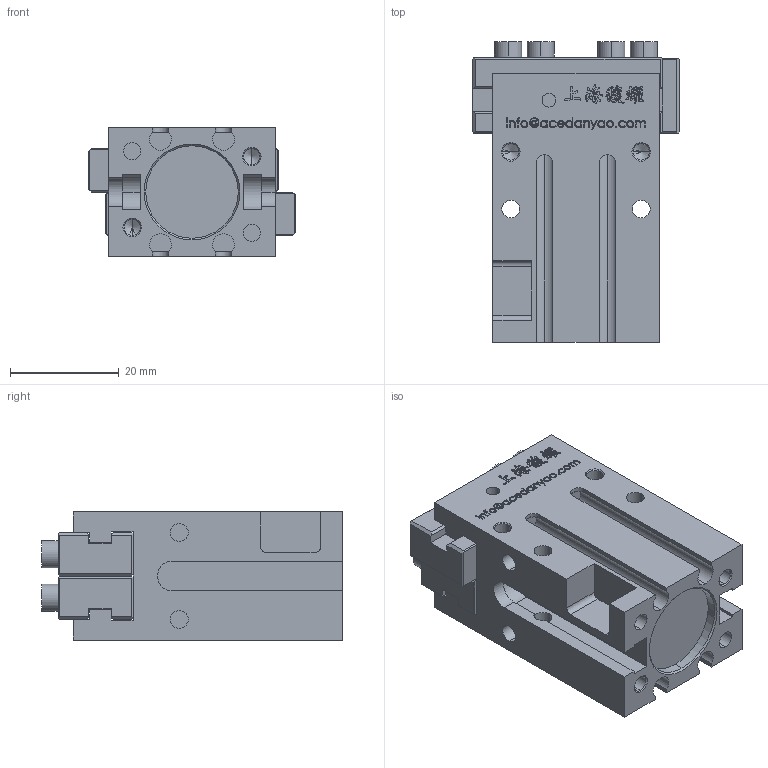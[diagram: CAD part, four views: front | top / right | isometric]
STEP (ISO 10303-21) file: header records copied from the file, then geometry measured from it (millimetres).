
FILE_DESCRIPTION (( 'STEP AP203' ), '1' );
FILE_NAME ('PEP-16-C1-VT-原始檔-組合-W106.04.20.STEP', '2017-04-20T02:08:59', ( 'DanyaoCAD' ), ( '' ), 'SwSTEP 2.0', 'SolidWorks 2016', '' );
FILE_SCHEMA (( 'CONFIG_CONTROL_DESIGN' ));
Length unit declared in the file: millimetre
Products named in the file (3): Griffa; Corpo; PEP-16-C1-VT-原始檔-組合-W106.04.20
Assembly tree (3 placements, depth 2):
  PEP-16-C1-VT-原始檔-組合-W106.04.20
    Griffa  x2
    Corpo
Bounding box: 38 x 55.3 x 23.6 mm (x, y, z)
Volume: 31116.7 mm3; surface area: 14783.4 mm2
Topology: 3 solids, 3 shells, 1030 faces, 2861 edges, 1890 vertices
Faces by surface type: bspline 640, plane 283, cylinder 85, cone 22
Entity records: 48018 total; most frequent: CARTESIAN_POINT 26671, ORIENTED_EDGE 5482, EDGE_CURVE 2741, DIRECTION 2333, VERTEX_POINT 1818, LINE 1293, VECTOR 1293, B_SPLINE_CURVE_WITH_KNOTS 1280
